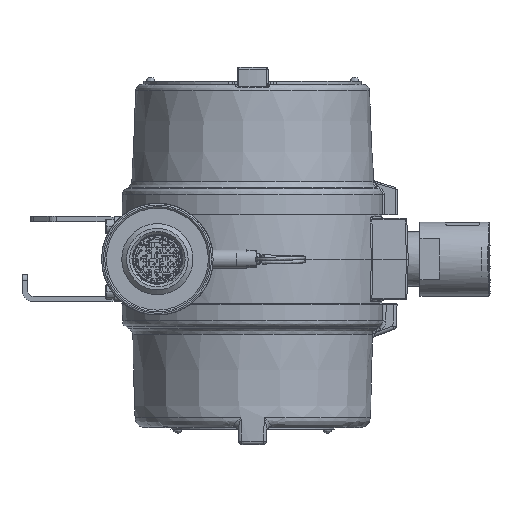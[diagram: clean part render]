
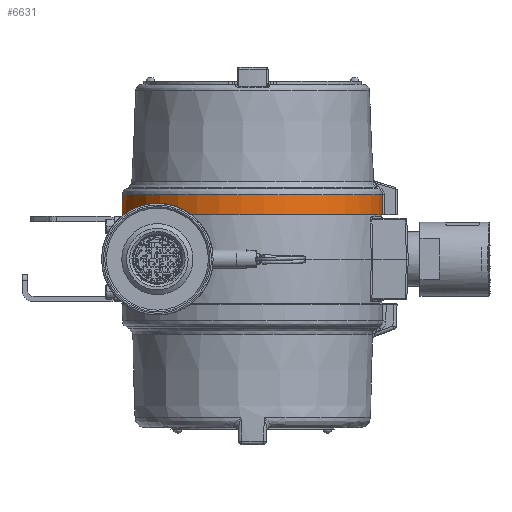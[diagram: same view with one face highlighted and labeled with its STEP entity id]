
A CAD part, front view. The second image highlights one B-rep face of the part: STEP entity #6631.
In plain terms, the highlighted conical face has half-angle 1.5 degrees and reference radius 61.119 mm.
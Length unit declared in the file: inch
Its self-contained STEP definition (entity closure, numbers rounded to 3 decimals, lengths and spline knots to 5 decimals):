
#1328 = CARTESIAN_POINT ( 'NONE',  ( 2.38997, -0.21594, 1.0625 ) ) ;
#5047 = CARTESIAN_POINT ( 'NONE',  ( 2.39325, 0.21594, 0.9375 ) ) ;
#5431 = CARTESIAN_POINT ( 'NONE',  ( 2.39325, -0.21594, 0.9375 ) ) ;
#6631 = ADVANCED_FACE ( 'NONE', ( #39342 ), #26895, .F. ) ;
#7292 = ORIENTED_EDGE ( 'NONE', *, *, #26519, .F. ) ;
#7530 = VERTEX_POINT ( 'NONE', #47286 ) ;
#10538 = DIRECTION ( 'NONE',  ( 0., 0., 1. ) ) ;
#11443 = ORIENTED_EDGE ( 'NONE', *, *, #48361, .T. ) ;
#12490 = CARTESIAN_POINT ( 'NONE',  ( 2.38668, 0.21594, 1.1875 ) ) ;
#13116 = CARTESIAN_POINT ( 'NONE',  ( 2.39654, -0.21595, 0.8125 ) ) ;
#13312 = EDGE_CURVE ( 'NONE', #24714, #29239, #47188, .T. ) ;
#16318 = CARTESIAN_POINT ( 'NONE',  ( 0., 0., 0.8125 ) ) ;
#17112 = AXIS2_PLACEMENT_3D ( 'NONE', #16318, #32197, #20922 ) ;
#20922 = DIRECTION ( 'NONE',  ( 0., 1., 0. ) ) ;
#24393 = ORIENTED_EDGE ( 'NONE', *, *, #13312, .F. ) ;
#24714 = VERTEX_POINT ( 'NONE', #34721 ) ;
#24867 = AXIS2_PLACEMENT_3D ( 'NONE', #46328, #10538, #26145 ) ;
#26145 = DIRECTION ( 'NONE',  ( 0., -1., 0. ) ) ;
#26519 = EDGE_CURVE ( 'NONE', #29239, #33649, #45317, .T. ) ;
#26559 = AXIS2_PLACEMENT_3D ( 'NONE', #33946, #46205, #42109 ) ;
#26895 = CONICAL_SURFACE ( 'NONE', #17112, 2.40625, 0.026 ) ;
#29218 = CARTESIAN_POINT ( 'NONE',  ( 2.38668, -0.21594, 1.1875 ) ) ;
#29239 = VERTEX_POINT ( 'NONE', #38432 ) ;
#32197 = DIRECTION ( 'NONE',  ( 0., 0., -1. ) ) ;
#33649 = VERTEX_POINT ( 'NONE', #13116 ) ;
#33842 = B_SPLINE_CURVE_WITH_KNOTS ( 'NONE', 3,
 ( #48422, #5431, #1328, #29218 ),
 .UNSPECIFIED., .F., .F.,
 ( 4, 4 ),
 ( 0., 1. ),
 .UNSPECIFIED. ) ;
#33946 = CARTESIAN_POINT ( 'NONE',  ( 0., 0., 0.8125 ) ) ;
#34721 = CARTESIAN_POINT ( 'NONE',  ( 2.38668, 0.21594, 1.1875 ) ) ;
#35999 = CARTESIAN_POINT ( 'NONE',  ( 2.38997, 0.21594, 1.0625 ) ) ;
#38432 = CARTESIAN_POINT ( 'NONE',  ( 2.39654, 0.21595, 0.8125 ) ) ;
#39342 = FACE_OUTER_BOUND ( 'NONE', #48740, .T. ) ;
#42109 = DIRECTION ( 'NONE',  ( 0., 1., 0. ) ) ;
#43680 = CARTESIAN_POINT ( 'NONE',  ( 2.39654, 0.21595, 0.8125 ) ) ;
#45317 = CIRCLE ( 'NONE', #26559, 2.40625 ) ;
#46141 = EDGE_CURVE ( 'NONE', #33649, #7530, #33842, .T. ) ;
#46205 = DIRECTION ( 'NONE',  ( 0., 0., 1. ) ) ;
#46328 = CARTESIAN_POINT ( 'NONE',  ( 0., 0., 1.1875 ) ) ;
#46893 = CIRCLE ( 'NONE', #24867, 2.39643 ) ;
#47188 = B_SPLINE_CURVE_WITH_KNOTS ( 'NONE', 3,
 ( #12490, #35999, #5047, #43680 ),
 .UNSPECIFIED., .F., .F.,
 ( 4, 4 ),
 ( 0., 1. ),
 .UNSPECIFIED. ) ;
#47286 = CARTESIAN_POINT ( 'NONE',  ( 2.38668, -0.21594, 1.1875 ) ) ;
#48361 = EDGE_CURVE ( 'NONE', #24714, #7530, #46893, .T. ) ;
#48422 = CARTESIAN_POINT ( 'NONE',  ( 2.39654, -0.21595, 0.8125 ) ) ;
#48740 = EDGE_LOOP ( 'NONE', ( #7292, #24393, #11443, #49198 ) ) ;
#49198 = ORIENTED_EDGE ( 'NONE', *, *, #46141, .F. ) ;
